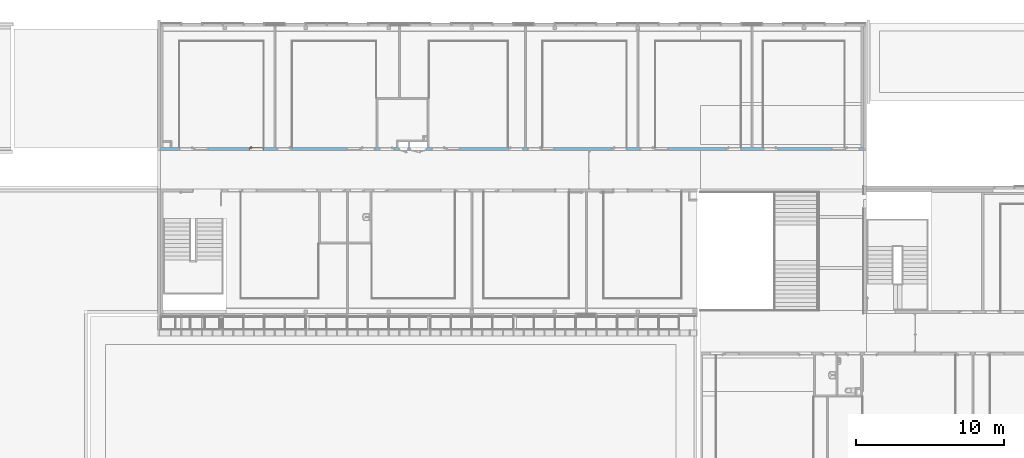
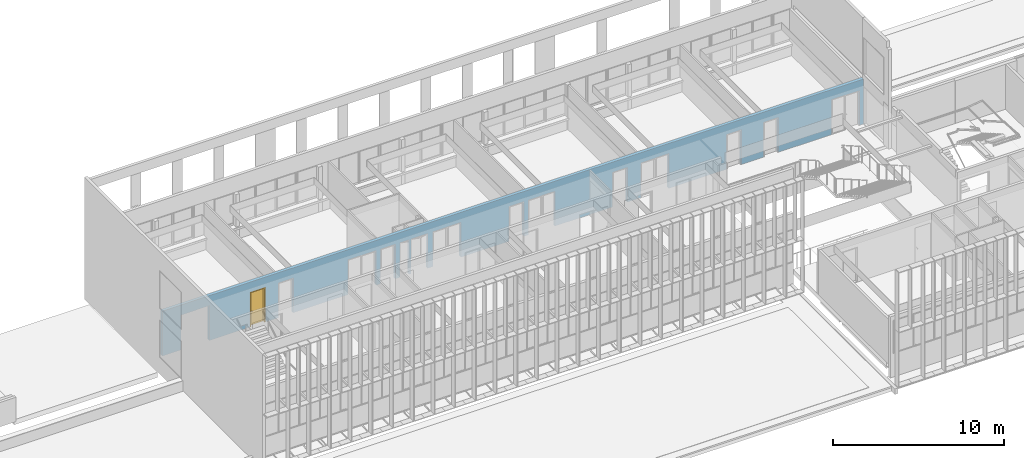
# One storey, part 49 of 106: 1 door, 21 openings, plus 1 element that does not belong to this part.
"""IFC2X3 building model written with IfcOpenShell, lengths in centimetres."""

from ifc_helpers import new_model, entity, si_unit, converted_unit, derived_unit, direction, frame, frame_2d, origin, place, context, subcontext, project, spatial, polyline, rectangle, extrude, clip, bounded_halfspace, faceted_brep, source, transform, mapped, material, material_list, layer, layer_set, layer_usage, type_object, type_shapes, element, fill, save


model = new_model("IFC2X3")

# Units and contexts
model_context = context("Model", 3, precision=0.001, world=origin(), true_north=direction((6.12303176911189e-17, 1.0)))
body_context = subcontext(model_context, "Body", "Model", "MODEL_VIEW")
ifc_project = project(units=[si_unit("LENGTHUNIT", "METRE", prefix="CENTI"), si_unit("AREAUNIT", "SQUARE_METRE"), si_unit("VOLUMEUNIT", "CUBIC_METRE"), converted_unit("PLANEANGLEUNIT", "DEGREE", entity("IfcRatioMeasure", 0.0174532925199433), si_unit("PLANEANGLEUNIT", "RADIAN"), dimensions=[0, 0, 0, 0, 0, 0, 0]), si_unit("MASSUNIT", "GRAM", prefix="KILO"), derived_unit("MASSDENSITYUNIT", [(si_unit("MASSUNIT", "GRAM", prefix="KILO"), 1), (si_unit("LENGTHUNIT", "METRE"), -3)]), si_unit("TIMEUNIT", "SECOND"), si_unit("FREQUENCYUNIT", "HERTZ"), si_unit("THERMODYNAMICTEMPERATUREUNIT", "DEGREE_CELSIUS"), derived_unit("THERMALTRANSMITTANCEUNIT", [(si_unit("MASSUNIT", "GRAM", prefix="KILO"), 1), (si_unit("THERMODYNAMICTEMPERATUREUNIT", "KELVIN"), -1), (si_unit("TIMEUNIT", "SECOND"), -3)]), derived_unit("VOLUMETRICFLOWRATEUNIT", [(si_unit("LENGTHUNIT", "METRE"), 3), (si_unit("TIMEUNIT", "SECOND"), -1)]), si_unit("ELECTRICCURRENTUNIT", "AMPERE"), si_unit("ELECTRICVOLTAGEUNIT", "VOLT"), si_unit("POWERUNIT", "WATT"), si_unit("FORCEUNIT", "NEWTON", prefix="KILO"), si_unit("ILLUMINANCEUNIT", "LUX"), si_unit("LUMINOUSFLUXUNIT", "LUMEN"), si_unit("LUMINOUSINTENSITYUNIT", "CANDELA"), derived_unit("USERDEFINED", [(si_unit("MASSUNIT", "GRAM", prefix="KILO"), -1), (si_unit("LENGTHUNIT", "METRE"), -2), (si_unit("TIMEUNIT", "SECOND"), 3), (si_unit("LUMINOUSFLUXUNIT", "LUMEN"), 1)]), derived_unit("LINEARVELOCITYUNIT", [(si_unit("LENGTHUNIT", "METRE"), 1), (si_unit("TIMEUNIT", "SECOND"), -1)]), si_unit("PRESSUREUNIT", "PASCAL"), derived_unit("USERDEFINED", [(si_unit("LENGTHUNIT", "METRE"), -2), (si_unit("MASSUNIT", "GRAM", prefix="KILO"), 1), (si_unit("TIMEUNIT", "SECOND"), -2)])], contexts=[model_context])

# Site, building, storey
site_placement = place(None, frame((-2781.94577612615, 7442.24238424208, 0.0)))
site = spatial("IfcSite", under=ifc_project, at=site_placement, Name="Default", CompositionType="ELEMENT")
building_placement = place(site_placement, origin())
building = spatial("IfcBuilding", under=site, at=building_placement, CompositionType="ELEMENT")
storey_placement = place(building_placement, frame((0.0, 0.0, 422.0)))
storey = spatial("IfcBuildingStorey", under=building, at=storey_placement, Name="Toiture - Cuisine", CompositionType="ELEMENT", Elevation=421.999999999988)

# Wall, openings, door
ifc_material_1 = material(Name="01 - Maçonnerie")
ifc_layer = layer(ifc_material_1, 20.0)
ifc_layer_set = layer_set([ifc_layer], Name="Mur de base:04 - Structure - béton - 20cm")
ifc_layer_usage = layer_usage(ifc_layer_set, "AXIS2", "NEGATIVE", 10.0)
wall_type = type_object("IfcWallType", Name="Mur de base:04 - Structure - béton - 20cm", PredefinedType="STANDARD", material=ifc_layer_set)
wall_placement = place(building_placement, frame((-8409.49987766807, -820.048500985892, 422.0)))
wall = element("IfcWallStandardCase", 1, at=wall_placement, inside=storey, type_object=wall_type, material=ifc_layer_usage, Name="Mur de base:04 - Structure - béton - 20cm", ObjectType="Mur de base:04 - Structure - béton - 20cm", context=body_context, shape_type="Clipping", body=[
    clip(extrude(rectangle(XDim=4741.49999798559, YDim=20.0, at=frame_2d((2370.74999899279, 2.04281036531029e-14), x_axis=(-1.0, 0.0))), origin(), (0.0, 0.0, 1.0), 321.0), bounded_halfspace(frame((4741.49999798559, -10.0, 321.0), z_axis=(0.0, 0.0, -1.0), x_axis=(0.0, 1.0, 0.0)), True, frame((4741.49999798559, -10.0, 321.0)), polyline([(0.0, 0.0), (0.0, 20.0), (-15.3000000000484, 20.0), (-125.300000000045, 20.0), (-127.300000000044, 20.0), (-675.800000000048, 20.0), (-677.800000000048, 20.0), (-745.800000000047, 20.0), (-755.800000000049, 20.0), (-825.800000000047, 20.0), (-827.800000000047, 20.0), (-1403.80000000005, 20.0), (-1405.80000000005, 20.0), (-1516.49999791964, 20.0), (-1526.49999791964, 20.0), (-1595.78709704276, 20.0), (-1597.78709704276, 20.0), (-2163.80000000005, 20.0), (-2165.80000000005, 20.0), (-2275.80000000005, 20.0), (-2285.80000000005, 20.0), (-2395.80000000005, 20.0), (-2397.80000000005, 20.0), (-2931.80000000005, 20.0), (-2941.80000000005, 20.0), (-3060.80000000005, 20.0), (-3070.80000000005, 20.0), (-3137.80000000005, 20.0), (-3147.80000000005, 20.0), (-3275.80000000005, 20.0), (-3285.80000000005, 20.0), (-3416.49999791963, 20.0), (-3535.80000000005, 20.0), (-3545.80000000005, 20.0), (-3611.80000000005, 20.0), (-3853.80000000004, 20.0), (-3855.80000000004, 20.0), (-3965.80000000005, 20.0), (-3975.80000000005, 20.0), (-4044.30000000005, 20.0), (-4046.30000000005, 20.0), (-4614.19999798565, 20.0), (-4616.19999798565, 20.0), (-4666.19999798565, 20.0), (-4676.19999798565, 20.0), (-4726.19999798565, 20.0), (-4741.49999798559, 20.0), (-4741.49999798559, 0.0), (-1854.0, 0.0), (-1844.0, 0.0), (-1840.0, 0.0), (0.0, 0.0)]))),
])
opening_1_placement = place(wall_placement, frame((1669.50000006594, 10.0, 0.0)))
element("IfcOpeningElement", 2, at=opening_1_placement, cuts=wall, Name="Int. Simple:PP Placard (0.55m x 2.50m):1", ObjectType="Opening", context=body_context, shape_type="SweptSolid", body=[
    extrude(rectangle(XDim=248.500000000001, YDim=61.9999999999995, at=frame_2d((124.250000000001, 30.9999999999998), x_axis=(1.0, 0.0))), frame((0.0, 0.0, 0.0), z_axis=(0.0, -1.0, 0.0), x_axis=(0.0, 0.0, 1.0)), (0.0, 0.0, 1.0), 20.0),
])
opening_2_placement = place(wall_placement, frame((1794.50000006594, 10.0, 0.0)))
element("IfcOpeningElement", 3, at=opening_2_placement, cuts=wall, Name="Int. Double:PP Placard (1.05m x 2.50m):1", ObjectType="Opening", context=body_context, shape_type="SweptSolid", body=[
    extrude(rectangle(XDim=248.500000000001, YDim=112.0, at=frame_2d((124.250000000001, 56.0000000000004), x_axis=(1.0, 0.0))), frame((0.0, 0.0, 0.0), z_axis=(0.0, -1.0, 0.0), x_axis=(0.0, 0.0, 1.0)), (0.0, 0.0, 1.0), 20.0),
])
opening_3_placement = place(wall_placement, frame((126.799999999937, -10.0, 0.0)))
element("IfcOpeningElement", 4, at=opening_3_placement, cuts=wall, Name="Int. Simple:PV (0.93m x 2.50m):1", ObjectType="Opening", context=body_context, shape_type="SweptSolid", body=[
    extrude(rectangle(XDim=248.500000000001, YDim=99.9999999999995, at=frame_2d((124.250000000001, 50.0), x_axis=(1.0, 0.0))), frame((0.0, 0.0, 0.0), z_axis=(0.0, 1.0, 0.0), x_axis=(0.0, 0.0, 1.0)), (0.0, 0.0, 1.0), 20.0),
])
opening_4_placement = place(wall_placement, frame((595.699997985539, -10.0, 0.0)))
opening_4 = element("IfcOpeningElement", 5, at=opening_4_placement, cuts=wall, Name="Int. Simple:PV (0.93m x 2.50m):1", ObjectType="Opening", context=body_context, shape_type="SweptSolid", body=[
    extrude(rectangle(XDim=248.500000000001, YDim=99.9999999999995, at=frame_2d((124.250000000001, 49.9999999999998), x_axis=(1.0, 0.0))), frame((0.0, 0.0, 0.0), z_axis=(0.0, 1.0, 0.0), x_axis=(0.0, 0.0, 1.0)), (0.0, 0.0, 1.0), 20.0),
])
opening_5_placement = place(wall_placement, frame((785.699997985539, -10.0, 0.0)))
element("IfcOpeningElement", 6, at=opening_5_placement, cuts=wall, Name="Int. Simple:PV (0.93m x 2.50m):1", ObjectType="Opening", context=body_context, shape_type="SweptSolid", body=[
    extrude(rectangle(XDim=248.500000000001, YDim=99.9999999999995, at=frame_2d((124.250000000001, 50.0), x_axis=(1.0, 0.0))), frame((0.0, 0.0, 0.0), z_axis=(0.0, 1.0, 0.0), x_axis=(0.0, 0.0, 1.0)), (0.0, 0.0, 1.0), 20.0),
])
opening_6_placement = place(wall_placement, frame((1345.69999798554, -10.0, 0.0)))
element("IfcOpeningElement", 7, at=opening_6_placement, cuts=wall, Name="Int. Simple:PV (0.93m x 2.50m):1", ObjectType="Opening", context=body_context, shape_type="SweptSolid", body=[
    extrude(rectangle(XDim=248.500000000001, YDim=99.9999999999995, at=frame_2d((124.250000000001, 49.9999999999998), x_axis=(1.0, 0.0))), frame((0.0, 0.0, 0.0), z_axis=(0.0, 1.0, 0.0), x_axis=(0.0, 0.0, 1.0)), (0.0, 0.0, 1.0), 20.0),
])
opening_7_placement = place(wall_placement, frame((1475.69999798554, -10.0, 0.0)))
element("IfcOpeningElement", 8, at=opening_7_placement, cuts=wall, Name="Int. Simple:PP simple (0.93m x 2.50m):1", ObjectType="Opening", context=body_context, shape_type="SweptSolid", body=[
    extrude(rectangle(XDim=248.500000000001, YDim=99.9999999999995, at=frame_2d((124.250000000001, 50.0), x_axis=(1.0, 0.0))), frame((0.0, 0.0, 0.0), z_axis=(0.0, 1.0, 0.0), x_axis=(0.0, 0.0, 1.0)), (0.0, 0.0, 1.0), 20.0),
])
opening_8_placement = place(wall_placement, frame((1829.69999798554, -10.0, 0.0)))
element("IfcOpeningElement", 9, at=opening_8_placement, cuts=wall, Name="Int. Simple:PV (0.93m x 2.50m):1", ObjectType="Opening", context=body_context, shape_type="SweptSolid", body=[
    extrude(rectangle(XDim=248.500000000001, YDim=99.9999999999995, at=frame_2d((124.250000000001, 50.0), x_axis=(1.0, 0.0))), frame((0.0, 0.0, 0.0), z_axis=(0.0, 1.0, 0.0), x_axis=(0.0, 0.0, 1.0)), (0.0, 0.0, 1.0), 20.0),
])
opening_9_placement = place(wall_placement, frame((2345.69999798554, -10.0, 0.0)))
element("IfcOpeningElement", 10, at=opening_9_placement, cuts=wall, Name="Int. Simple:PV (0.93m x 2.50m):1", ObjectType="Opening", context=body_context, shape_type="SweptSolid", body=[
    extrude(rectangle(XDim=248.500000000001, YDim=99.9999999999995, at=frame_2d((124.250000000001, 49.9999999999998), x_axis=(1.0, 0.0))), frame((0.0, 0.0, 0.0), z_axis=(0.0, 1.0, 0.0), x_axis=(0.0, 0.0, 1.0)), (0.0, 0.0, 1.0), 20.0),
])
opening_10_placement = place(wall_placement, frame((2475.69999798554, -10.0, 0.0)))
element("IfcOpeningElement", 11, at=opening_10_placement, cuts=wall, Name="Int. Simple:PV (0.93m x 2.50m):1", ObjectType="Opening", context=body_context, shape_type="SweptSolid", body=[
    extrude(rectangle(XDim=248.500000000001, YDim=99.9999999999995, at=frame_2d((124.250000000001, 50.0), x_axis=(1.0, 0.0))), frame((0.0, 0.0, 0.0), z_axis=(0.0, 1.0, 0.0), x_axis=(0.0, 0.0, 1.0)), (0.0, 0.0, 1.0), 20.0),
])
opening_11_placement = place(wall_placement, frame((3045.69999798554, -10.0, 0.0)))
element("IfcOpeningElement", 12, at=opening_11_placement, cuts=wall, Name="Int. Simple:PV (0.93m x 2.50m):1", ObjectType="Opening", context=body_context, shape_type="SweptSolid", body=[
    extrude(rectangle(XDim=248.500000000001, YDim=99.9999999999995, at=frame_2d((124.250000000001, 49.9999999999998), x_axis=(1.0, 0.0))), frame((0.0, 0.0, 0.0), z_axis=(0.0, 1.0, 0.0), x_axis=(0.0, 0.0, 1.0)), (0.0, 0.0, 1.0), 20.0),
])
opening_12_placement = place(wall_placement, frame((3235.69999798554, -10.0, 0.0)))
element("IfcOpeningElement", 13, at=opening_12_placement, cuts=wall, Name="Int. Simple:PV (0.93m x 2.50m):1", ObjectType="Opening", context=body_context, shape_type="SweptSolid", body=[
    extrude(rectangle(XDim=248.500000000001, YDim=99.9999999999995, at=frame_2d((124.250000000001, 50.0), x_axis=(1.0, 0.0))), frame((0.0, 0.0, 0.0), z_axis=(0.0, 1.0, 0.0), x_axis=(0.0, 0.0, 1.0)), (0.0, 0.0, 1.0), 20.0),
])
opening_13_placement = place(wall_placement, frame((3815.69999798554, -10.0, 0.0)))
element("IfcOpeningElement", 14, at=opening_13_placement, cuts=wall, Name="Int. Simple:PV (0.93m x 2.50m):1", ObjectType="Opening", context=body_context, shape_type="SweptSolid", body=[
    extrude(rectangle(XDim=248.500000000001, YDim=99.9999999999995, at=frame_2d((124.250000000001, 49.9999999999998), x_axis=(1.0, 0.0))), frame((0.0, 0.0, 0.0), z_axis=(0.0, 1.0, 0.0), x_axis=(0.0, 0.0, 1.0)), (0.0, 0.0, 1.0), 20.0),
])
opening_14_placement = place(wall_placement, frame((4065.69999798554, -10.0, 0.0)))
element("IfcOpeningElement", 15, at=opening_14_placement, cuts=wall, Name="Int. Simple:PV (0.93m x 2.50m):1", ObjectType="Opening", context=body_context, shape_type="SweptSolid", body=[
    extrude(rectangle(XDim=248.500000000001, YDim=99.9999999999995, at=frame_2d((124.250000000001, 50.0), x_axis=(1.0, 0.0))), frame((0.0, 0.0, 0.0), z_axis=(0.0, 1.0, 0.0), x_axis=(0.0, 0.0, 1.0)), (0.0, 0.0, 1.0), 20.0),
])
opening_15_placement = place(wall_placement, frame((4616.19999798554, -10.0, 0.0)))
element("IfcOpeningElement", 16, at=opening_15_placement, cuts=wall, Name="Int. Simple:PV (0.93m x 2.50m):1", ObjectType="Opening", context=body_context, shape_type="SweptSolid", body=[
    extrude(rectangle(XDim=248.500000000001, YDim=99.9999999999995, at=frame_2d((124.250000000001, 49.9999999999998), x_axis=(1.0, 0.0))), frame((0.0, 0.0, 0.0), z_axis=(0.0, 1.0, 0.0), x_axis=(0.0, 0.0, 1.0)), (0.0, 0.0, 1.0), 20.0),
])
opening_16_placement = place(wall_placement, frame((1255.69999798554, -10.0, 0.0)))
element("IfcOpeningElement", 17, at=opening_16_placement, cuts=wall, Name="châssis intérieur vitré:châssis intérieur vitré (h=270) R+1:1", ObjectType="Opening", context=body_context, shape_type="SweptSolid", body=[
    extrude(rectangle(XDim=250.0, YDim=89.9999999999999, at=frame_2d((125.0, 45.0), x_axis=(1.0, 0.0))), frame((0.0, 0.0, 0.0), z_axis=(0.0, 1.0, 0.0), x_axis=(0.0, 0.0, 1.0)), (0.0, 0.0, 1.0), 20.0),
])
opening_17_placement = place(wall_placement, frame((1929.69999798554, -10.0, 0.0)))
element("IfcOpeningElement", 18, at=opening_17_placement, cuts=wall, Name="châssis intérieur vitré:châssis intérieur vitré (h=270) R+1:1", ObjectType="Opening", context=body_context, shape_type="SweptSolid", body=[
    extrude(rectangle(XDim=250.0, YDim=89.9999999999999, at=frame_2d((125.0, 45.0), x_axis=(1.0, 0.0))), frame((0.0, 0.0, 0.0), z_axis=(0.0, 1.0, 0.0), x_axis=(0.0, 0.0, 1.0)), (0.0, 0.0, 1.0), 20.0),
])
opening_18_placement = place(wall_placement, frame((4526.19999798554, -10.0, 0.0)))
element("IfcOpeningElement", 19, at=opening_18_placement, cuts=wall, Name="châssis intérieur vitré:châssis intérieur vitré (h=270) R+1:1", ObjectType="Opening", context=body_context, shape_type="SweptSolid", body=[
    extrude(rectangle(XDim=250.0, YDim=89.9999999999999, at=frame_2d((125.0, 45.0000000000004), x_axis=(1.0, 0.0))), frame((0.0, 0.0, 0.0), z_axis=(0.0, 1.0, 0.0), x_axis=(0.0, 0.0, 1.0)), (0.0, 0.0, 1.0), 20.0),
])
opening_19_placement = place(wall_placement, frame((3335.69999798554, -10.0, 0.0)))
element("IfcOpeningElement", 20, at=opening_19_placement, cuts=wall, Name="châssis intérieur vitré:châssis intérieur vitré (h=270) R+1:1", ObjectType="Opening", context=body_context, shape_type="SweptSolid", body=[
    extrude(rectangle(XDim=250.0, YDim=89.9999999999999, at=frame_2d((125.0, 45.0000000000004), x_axis=(1.0, 0.0))), frame((0.0, 0.0, 0.0), z_axis=(0.0, 1.0, 0.0), x_axis=(0.0, 0.0, 1.0)), (0.0, 0.0, 1.0), 20.0),
])
opening_20_placement = place(wall_placement, frame((2565.69999798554, -10.0, 0.0)))
element("IfcOpeningElement", 21, at=opening_20_placement, cuts=wall, Name="châssis intérieur vitré:châssis intérieur vitré (h=270) R+1:1", ObjectType="Opening", context=body_context, shape_type="SweptSolid", body=[
    extrude(rectangle(XDim=250.0, YDim=89.9999999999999, at=frame_2d((125.0, 45.0000000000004), x_axis=(1.0, 0.0))), frame((0.0, 0.0, 0.0), z_axis=(0.0, 1.0, 0.0), x_axis=(0.0, 0.0, 1.0)), (0.0, 0.0, 1.0), 20.0),
])
opening_21_placement = place(wall_placement, frame((226.799999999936, -10.0, 0.0)))
element("IfcOpeningElement", 22, at=opening_21_placement, cuts=wall, Name="châssis intérieur vitré:châssis intérieur vitré (h=270) R+1:1", ObjectType="Opening", context=body_context, shape_type="SweptSolid", body=[
    extrude(rectangle(XDim=250.0, YDim=91.4999999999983, at=frame_2d((125.0, 45.7499999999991), x_axis=(1.0, 0.0))), frame((0.0, 0.0, 0.0), z_axis=(0.0, 1.0, 0.0), x_axis=(0.0, 0.0, 1.0)), (0.0, 0.0, 1.0), 20.0),
])
ifc_material_2 = material(Name="Finition Peinture - Blanc satiné")
ifc_material_3 = material(Name="Bois - Panneau de porte")
ifc_material_4 = material(Name="Bois - Cadre de porte")
ifc_material_list_1 = material_list([ifc_material_2, ifc_material_3, ifc_material_4])
ifc_material_list_2 = material_list([ifc_material_2, ifc_material_3, ifc_material_4])
door_style = type_object("IfcDoorStyle", Name="PV (0.93m x 2.50m)", ConstructionType="NOTDEFINED", OperationType="SINGLE_SWING_RIGHT", ParameterTakesPrecedence=False, Sizeable=False, material=ifc_material_list_2)
shared_shape = source(origin(), body_context, "Body", "Brep", [
    faceted_brep([(99.5000000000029, -0.500000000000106, 87.0), (99.5000000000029, -0.500000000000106, 108.0), (98.535276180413, -0.500000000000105, 108.399601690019), (97.5000000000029, -0.500000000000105, 108.535898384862), (96.4647238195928, -0.500000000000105, 108.399601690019), (95.500000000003, -0.500000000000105, 108.0), (95.5000000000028, -0.500000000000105, 87.0), (96.4647238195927, -0.500000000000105, 86.6003983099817), (97.5000000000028, -0.500000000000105, 86.464101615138), (98.5352761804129, -0.500000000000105, 86.6003983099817), (99.5000000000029, 0.0, 108.0), (99.5000000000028, 0.0, 87.0), (98.5352761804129, 0.0, 86.6003983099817), (97.5000000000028, 0.0, 86.464101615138), (96.4647238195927, 0.0, 86.6003983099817), (95.5000000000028, 0.0, 87.0), (95.5000000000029, 0.0, 108.0), (96.4647238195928, 0.0, 108.399601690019), (97.5000000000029, 0.0, 108.535898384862), (98.535276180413, 0.0, 108.399601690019)], [[[0, 1, 2, 3, 4, 5, 6, 7, 8, 9]], [[10, 11, 12, 13, 14, 15, 16, 17, 18, 19]], [[9, 12, 11, 0]], [[8, 13, 12, 9]], [[7, 14, 13, 8]], [[7, 6, 15, 14]], [[15, 6, 5, 16]], [[4, 17, 16, 5]], [[3, 18, 17, 4]], [[2, 19, 18, 3]], [[2, 1, 10, 19]], [[11, 10, 1, 0]]]),
    faceted_brep([(99.5000000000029, 4.0, 87.0), (99.5000000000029, 4.0, 108.0), (98.535276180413, 4.0, 108.399601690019), (97.5000000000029, 4.0, 108.535898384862), (96.4647238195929, 4.0, 108.399601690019), (95.500000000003, 4.0, 108.0), (95.5000000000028, 4.0, 87.0), (96.4647238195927, 4.0, 86.6003983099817), (97.5000000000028, 4.0, 86.464101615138), (98.5352761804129, 4.0, 86.6003983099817), (97.5000000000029, 4.49999999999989, 108.535898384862), (98.535276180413, 4.49999999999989, 108.399601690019), (99.5000000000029, 4.49999999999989, 108.0), (99.5000000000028, 4.49999999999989, 87.0), (98.5352761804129, 4.49999999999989, 86.6003983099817), (97.5000000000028, 4.49999999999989, 86.464101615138), (96.4647238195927, 4.49999999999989, 86.6003983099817), (95.5000000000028, 4.49999999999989, 87.0), (95.500000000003, 4.49999999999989, 108.0), (96.4647238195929, 4.49999999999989, 108.399601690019)], [[[0, 1, 2, 3, 4, 5, 6, 7, 8, 9]], [[10, 11, 12, 13, 14, 15, 16, 17, 18, 19]], [[4, 19, 18, 5]], [[3, 10, 19, 4]], [[2, 11, 10, 3]], [[2, 1, 12, 11]], [[13, 12, 1, 0]], [[9, 14, 13, 0]], [[8, 15, 14, 9]], [[7, 16, 15, 8]], [[7, 6, 17, 16]], [[17, 6, 5, 18]]]),
    faceted_brep([(97.2974701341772, -0.500000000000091, 100.778044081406), (97.7025298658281, -0.500000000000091, 100.778044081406), (98.1000000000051, -0.500000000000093, 100.699999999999), (98.100000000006, -0.500000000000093, 99.2999999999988), (97.7025298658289, -0.500000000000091, 99.221955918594), (97.297470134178, -0.500000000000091, 99.2219559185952), (96.9000000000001, -0.500000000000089, 99.3000000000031), (96.9000000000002, -0.500000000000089, 100.7), (97.7025298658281, -3.10045754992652, 100.778044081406), (98.1000000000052, -3.26509507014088, 100.7), (97.2974701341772, -2.93267631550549, 100.778044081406), (95.9298602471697, -4.30028620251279, 100.778044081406), (96.0976414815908, -4.70534593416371, 100.778044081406), (96.9000000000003, -2.76803879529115, 100.7), (96.9000000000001, -2.76803879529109, 99.3000000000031), (97.297470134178, -2.93267631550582, 99.2219559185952), (97.7025298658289, -3.10045754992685, 99.221955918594), (96.0976414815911, -4.70534593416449, 99.221955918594), (95.9298602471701, -4.30028620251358, 99.2219559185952), (98.100000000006, -3.26509507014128, 99.2999999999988), (96.2622790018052, -5.1028160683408, 100.7), (95.7652227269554, -3.90281606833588, 100.7), (95.7652227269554, -3.90281606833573, 99.3000000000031), (96.2622790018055, -5.10281606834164, 99.2999999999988), (87.4981359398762, -5.10281606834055, 100.7), (87.4981359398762, -4.70534593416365, 100.778044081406), (87.4981359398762, -4.30028620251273, 100.778044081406), (87.4981359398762, -3.90281606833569, 100.699999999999), (87.4981359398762, -3.90281606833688, 99.3000000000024), (87.4981359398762, -4.30028620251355, 99.2219559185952), (87.4981359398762, -4.70534593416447, 99.221955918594), (87.4981359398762, -5.10281606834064, 99.2999999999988), (91.7139980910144, -4.5028160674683, 100.78786867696), (92.2692302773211, -5.1028160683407, 100.7), (91.6316793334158, -3.9028160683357, 100.7), (91.631679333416, -3.90281606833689, 99.3000000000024), (91.7139981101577, -4.50281607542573, 99.2121313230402), (92.2692310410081, -5.10281606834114, 99.2999999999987)], [[[0, 1, 2, 3, 4, 5, 6, 7]], [[2, 1, 8, 9]], [[1, 0, 10, 11, 12, 8]], [[0, 7, 13, 10]], [[14, 13, 7, 6]], [[5, 15, 14, 6]], [[5, 4, 16, 17, 18, 15]], [[3, 19, 16, 4]], [[9, 19, 3, 2]], [[9, 8, 12, 20]], [[10, 13, 21, 11]], [[22, 21, 13, 14]], [[14, 15, 18, 22]], [[16, 19, 23, 17]], [[20, 23, 19, 9]], [[24, 25, 26, 27, 28, 29, 30, 31]], [[32, 25, 33]], [[33, 25, 24]], [[33, 20, 12]], [[11, 34, 32]], [[34, 11, 21]], [[27, 26, 34]], [[32, 26, 25]], [[32, 34, 26]], [[32, 33, 12]], [[11, 32, 12]], [[21, 22, 35, 28, 27, 34]], [[36, 29, 35]], [[30, 36, 37]], [[18, 35, 22]], [[29, 28, 35]], [[30, 37, 31]], [[37, 17, 23]], [[36, 17, 37]], [[36, 18, 17]], [[36, 35, 18]], [[29, 36, 30]], [[23, 20, 33, 24, 31, 37]]]),
    faceted_brep([(97.2974701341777, 4.49999999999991, 99.2219559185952), (97.7025298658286, 4.49999999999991, 99.221955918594), (98.1000000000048, 4.4999999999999, 99.2999999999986), (98.1000000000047, 4.4999999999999, 100.7), (97.7025298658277, 4.49999999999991, 100.778044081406), (97.2974701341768, 4.49999999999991, 100.778044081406), (96.8999999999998, 4.49999999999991, 100.7), (96.900000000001, 4.49999999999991, 99.3000000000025), (96.8999999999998, 6.7485204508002, 100.7), (96.8999999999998, 6.74852045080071, 99.3000000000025), (97.2974701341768, 6.91315797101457, 100.778044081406), (97.7025298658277, 7.0809392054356, 100.778044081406), (96.0838906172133, 8.69957845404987, 100.778044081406), (95.9161093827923, 8.29451872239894, 100.778044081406), (98.1000000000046, 7.24557672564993, 100.7), (98.1000000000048, 7.24557672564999, 99.2999999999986), (97.7025298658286, 7.08093920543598, 99.221955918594), (97.2974701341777, 6.91315797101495, 99.2219559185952), (95.9161093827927, 8.29451872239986, 99.2219559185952), (96.0838906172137, 8.69957845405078, 99.221955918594), (95.751471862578, 7.89704858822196, 100.7), (95.7514718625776, 7.89704858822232, 99.3000000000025), (96.2485281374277, 9.09704858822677, 100.7), (96.2485281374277, 9.09704858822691, 99.2999999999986), (87.4954216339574, 8.29451872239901, 100.778044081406), (87.4954216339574, 8.69957845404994, 100.778044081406), (87.4954216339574, 9.09704858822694, 100.7), (87.4954216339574, 9.09704858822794, 99.2999999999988), (87.4954216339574, 8.6995784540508, 99.221955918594), (87.4954216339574, 8.29451872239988, 99.2219559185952), (87.4954216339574, 7.89704858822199, 99.3000000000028), (87.4954216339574, 7.89704858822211, 100.7), (91.6234467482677, 7.89704858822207, 100.7), (91.6234479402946, 7.89704858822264, 99.3000000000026), (91.7057655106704, 8.49704858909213, 100.78786867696), (92.255479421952, 9.09704858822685, 100.7), (92.2554795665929, 9.09704858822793, 99.2999999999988), (91.7057654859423, 8.49704858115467, 99.2121313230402)], [[[0, 1, 2, 3, 4, 5, 6, 7]], [[8, 9, 7, 6]], [[5, 10, 8, 6]], [[5, 4, 11, 12, 13, 10]], [[3, 14, 11, 4]], [[14, 3, 2, 15]], [[2, 1, 16, 15]], [[1, 0, 17, 18, 19, 16]], [[0, 7, 9, 17]], [[20, 21, 9, 8]], [[8, 10, 13, 20]], [[14, 22, 12, 11]], [[23, 22, 14, 15]], [[15, 16, 19, 23]], [[17, 9, 21, 18]], [[24, 25, 26, 27, 28, 29, 30, 31]], [[21, 20, 32, 31, 30, 33]], [[34, 24, 32]], [[25, 34, 35]], [[13, 32, 20]], [[24, 31, 32]], [[25, 35, 26]], [[35, 12, 22]], [[34, 12, 35]], [[34, 13, 12]], [[34, 32, 13]], [[24, 34, 25]], [[22, 23, 36, 27, 26, 35]], [[37, 28, 36]], [[36, 28, 27]], [[36, 23, 19]], [[18, 33, 37]], [[33, 18, 21]], [[30, 29, 33]], [[37, 29, 28]], [[37, 33, 29]], [[37, 36, 19]], [[18, 37, 19]]]),
    faceted_brep([(103.500000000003, 4.0, 245.0), (103.500000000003, 4.0, 0.0), (10.5000000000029, 4.0, 0.0), (10.5000000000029, 4.0, 245.0), (103.500000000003, 0.0, 245.0), (10.5000000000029, 0.0, 245.0), (10.5000000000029, 0.0, 0.0), (103.500000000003, 0.0, 0.0)], [[[0, 1, 2, 3]], [[4, 5, 6, 7]], [[3, 5, 4, 0]], [[2, 6, 5, 3]], [[1, 7, 6, 2]], [[0, 4, 7, 1]]]),
    faceted_brep([(107.0, 20.0, 0.0), (107.0, 0.0, 0.0), (108.500000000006, 0.0, 0.0), (108.500000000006, -0.500000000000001, 0.0), (103.500000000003, -0.500000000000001, 0.0), (103.500000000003, 4.0, 0.0), (102.0, 4.0, 0.0), (102.0, 20.5000000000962, 0.0), (108.500000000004, 20.5000000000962, 0.0), (108.500000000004, 20.0, 0.0), (108.500000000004, 20.0, 250.0), (5.50000000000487, 20.0, 250.0), (5.50000000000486, 20.0, 0.0), (7.0, 20.0, 0.0), (7.0, 20.0, 248.500000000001), (107.0, 20.0, 248.500000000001), (108.500000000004, 20.5000000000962, 250.0), (102.0, 20.5000000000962, 243.5), (12.0, 20.5000000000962, 243.5), (12.0, 20.5000000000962, 0.0), (5.50000000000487, 20.5000000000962, 0.0), (5.50000000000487, 20.5000000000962, 250.0), (102.0, 4.0, 243.5), (103.500000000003, 4.0, 245.0), (10.5000000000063, 4.0, 245.0), (10.5000000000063, 4.0, 0.0), (12.0, 4.0, 0.0), (12.0, 4.0, 243.5), (103.500000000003, -0.500000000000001, 245.0), (108.500000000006, -0.500000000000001, 250.0), (5.5000000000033, -0.500000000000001, 250.0), (5.50000000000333, -0.500000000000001, 0.0), (10.5000000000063, -0.500000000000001, 0.0), (10.5000000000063, -0.500000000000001, 245.0), (108.500000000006, 0.0, 250.0), (107.0, 0.0, 248.500000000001), (7.0, 0.0, 248.500000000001), (7.0, 0.0, 0.0), (5.5000000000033, 0.0, 0.0), (5.50000000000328, 0.0, 250.0)], [[[0, 1, 2, 3, 4, 5, 6, 7, 8, 9]], [[9, 10, 11, 12, 13, 14, 15, 0]], [[8, 16, 10, 9]], [[7, 17, 18, 19, 20, 21, 16, 8]], [[7, 6, 22, 17]], [[5, 23, 24, 25, 26, 27, 22, 6]], [[5, 4, 28, 23]], [[3, 29, 30, 31, 32, 33, 28, 4]], [[2, 34, 29, 3]], [[1, 35, 36, 37, 38, 39, 34, 2]], [[0, 15, 35, 1]], [[14, 13, 37, 36]], [[13, 12, 20, 19, 26, 25, 32, 31, 38, 37]], [[21, 20, 12, 11]], [[27, 26, 19, 18]], [[33, 32, 25, 24]], [[39, 38, 31, 30]], [[16, 21, 11, 10]], [[22, 27, 18, 17]], [[28, 33, 24, 23]], [[34, 39, 30, 29]], [[15, 14, 36, 35]]]),
])
type_shapes(door_style, [shared_shape])
door_placement = place(opening_4_placement, frame((107.0, 20.0, 0.0), z_axis=(0.0, 0.0, 1.0), x_axis=(-1.0, 0.0, 0.0)))
door = element("IfcDoor", 23, at=door_placement, inside=storey, type_object=door_style, material=ifc_material_list_1, Name="Int. Simple:PV (0.93m x 2.50m)", ObjectType="Int. Simple:PV (0.93m x 2.50m)", OverallHeight=248.500000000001, OverallWidth=99.9999999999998, context=body_context, shape_type="MappedRepresentation", body=[
    mapped(shared_shape, transform((0.0, 0.0, 0.0), scale=1.0)),
])
fill(opening_4, door)

save(model, "model.ifc")
